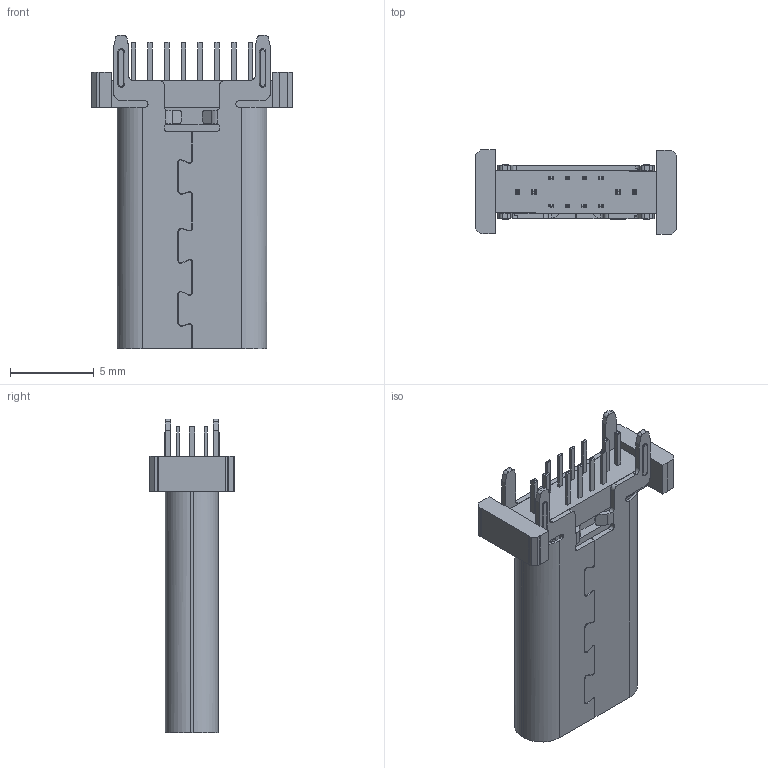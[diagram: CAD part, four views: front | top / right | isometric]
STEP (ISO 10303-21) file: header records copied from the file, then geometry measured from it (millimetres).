
FILE_DESCRIPTION((''),'2;1');
FILE_NAME('ASM0001_ASM','2024-10-25T',('WYH'),(''),'PRO/ENGINEER BY PARAMETRIC TECHNOLOGY CORPORATION, 2013040','PRO/ENGINEER BY PARAMETRIC TECHNOLOGY CORPORATION, 2013040','');
FILE_SCHEMA(('CONFIG_CONTROL_DESIGN'));
Length unit declared in the file: millimetre
Products named in the file (1): ASM0001_ASM
Bounding box: 12.01 x 5.03 x 18.7 mm (x, y, z)
Volume: 375.5 mm3; surface area: 825.6 mm2
Topology: 1 solids, 10 shells, 623 faces, 1730 edges, 1142 vertices
Faces by surface type: plane 464, cylinder 132, cone 19, torus 8
Entity records: 19970 total; most frequent: CARTESIAN_POINT 3782, ORIENTED_EDGE 3460, DIRECTION 3231, EDGE_CURVE 1730, VECTOR 1363, LINE 1363, VERTEX_POINT 1142, AXIS2_PLACEMENT_3D 934
